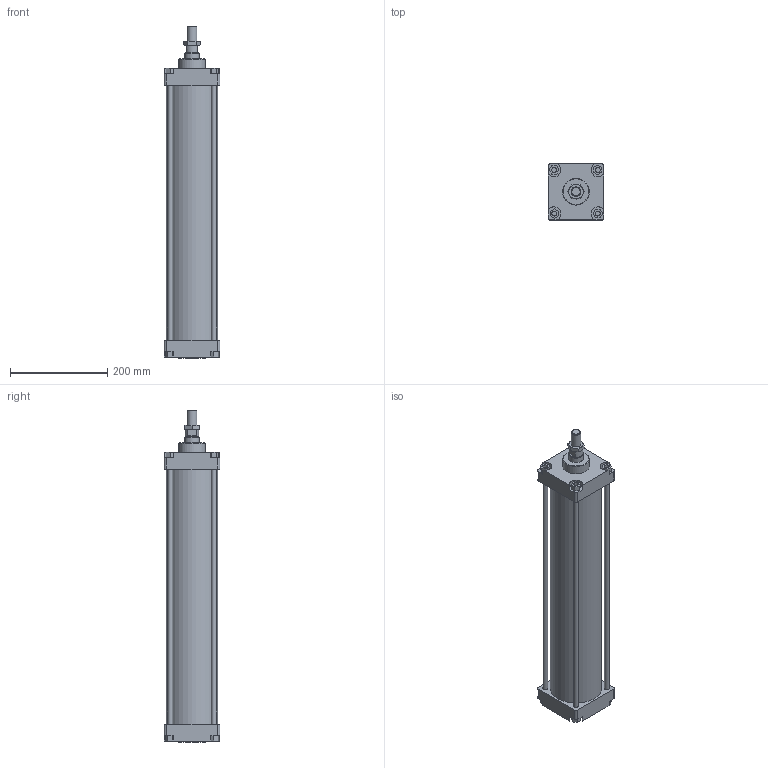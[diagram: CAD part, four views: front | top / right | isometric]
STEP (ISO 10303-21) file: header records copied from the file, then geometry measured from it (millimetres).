
FILE_DESCRIPTION(/* description */ (''),/* implementation_level */ '2;1');
FILE_NAME(/* name */ 'I:\Area Tecnica\Disegni\VARIE-3D\Componenti\CSP\Ø100\130#_100_####_###\130#_100_0450_01A.stp',/* time_stamp */ '2016-11-24T13:51:59+01:00',/* author */ ('Maniean1'),/* organization */ ('Pneumax S.p.A.'),/* preprocessor_version */ 'ST-DEVELOPER v15.2',/* originating_system */ 'Autodesk Inventor 2014',/* authorisation */ '');
FILE_SCHEMA (('AUTOMOTIVE_DESIGN { 1 0 10303 214 3 1 1 }'));
Length unit declared in the file: millimetre
Products named in the file (6): C_130#_100_0450; Testata anteriore_100; Testata posteriore_100; S_130#_100_0450_01A; 130#_100_18F; 130#_100_0450_01A
Bounding box: 115 x 115 x 684 mm (x, y, z)
Volume: 2501680.3 mm3; surface area: 614122.8 mm2
Topology: 9 solids, 9 shells, 162 faces, 380 edges, 249 vertices
Faces by surface type: plane 105, cylinder 42, cone 15
Full cylindrical faces by diameter (mm): 10 x12, 18.376 x1, 18.5 x1, 19 x2, 20 x1, 28 x1, 30 x3, 55 x2, 100 x2, 106 x1
Entity records: 4530 total; most frequent: CARTESIAN_POINT 785, DIRECTION 764, ORIENTED_EDGE 672, EDGE_CURVE 336, AXIS2_PLACEMENT_3D 271, VERTEX_POINT 244, EDGE_LOOP 236, LINE 222
